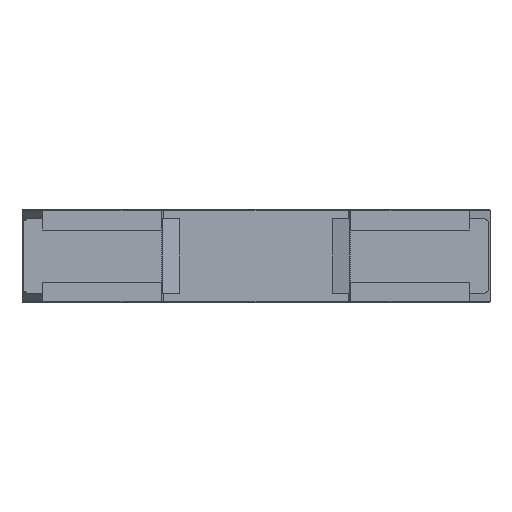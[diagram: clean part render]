
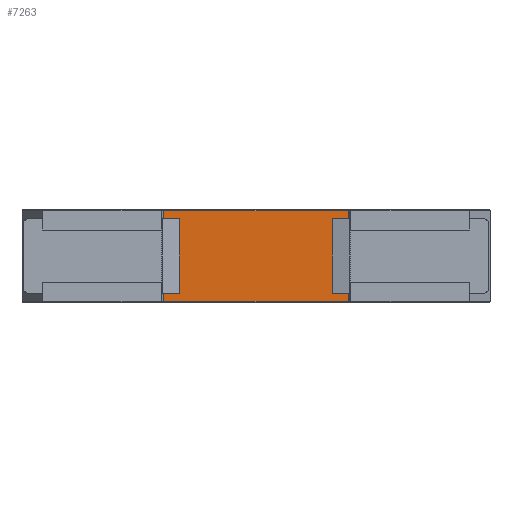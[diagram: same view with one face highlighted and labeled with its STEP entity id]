
A CAD part, front view. The second image highlights one B-rep face of the part: STEP entity #7263.
In plain terms, the highlighted planar face has unit normal (0, -1, 0).
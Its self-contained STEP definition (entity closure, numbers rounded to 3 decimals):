
#2 = EDGE_CURVE ( 'NONE', #5, #3677, #12198, .T. ) ;
#5 = VERTEX_POINT ( 'NONE', #3564 ) ;
#268 = CARTESIAN_POINT ( 'NONE',  ( 17.5, 0., -7.15 ) ) ;
#322 = CARTESIAN_POINT ( 'NONE',  ( 44.75, 0., -7.15 ) ) ;
#562 = VECTOR ( 'NONE', #4317, 1000. ) ;
#702 = LINE ( 'NONE', #8896, #6167 ) ;
#926 = CARTESIAN_POINT ( 'NONE',  ( 44.75, 0., 7.15 ) ) ;
#1131 = EDGE_CURVE ( 'NONE', #2489, #5772, #11711, .T. ) ;
#1209 = CARTESIAN_POINT ( 'NONE',  ( -17.5, 0., -7.15 ) ) ;
#1231 = PLANE ( 'NONE',  #10418 ) ;
#1276 = DIRECTION ( 'NONE',  ( 0., 1., 0. ) ) ;
#1344 = DIRECTION ( 'NONE',  ( -1., 0., 0. ) ) ;
#1403 = CARTESIAN_POINT ( 'NONE',  ( -17.75, 0., -8.7 ) ) ;
#1493 = EDGE_CURVE ( 'NONE', #7833, #6370, #12297, .T. ) ;
#1530 = ORIENTED_EDGE ( 'NONE', *, *, #1493, .T. ) ;
#1582 = ORIENTED_EDGE ( 'NONE', *, *, #10943, .T. ) ;
#1774 = CARTESIAN_POINT ( 'NONE',  ( 17.75, 0., -7.15 ) ) ;
#1796 = CARTESIAN_POINT ( 'NONE',  ( 17.5, 0., 8.9 ) ) ;
#1917 = VECTOR ( 'NONE', #12910, 1000. ) ;
#1961 = VECTOR ( 'NONE', #3642, 1000. ) ;
#2333 = LINE ( 'NONE', #1403, #8906 ) ;
#2489 = VERTEX_POINT ( 'NONE', #5060 ) ;
#2530 = EDGE_CURVE ( 'NONE', #12934, #5373, #10028, .T. ) ;
#2819 = EDGE_CURVE ( 'NONE', #5373, #2489, #11130, .T. ) ;
#2985 = DIRECTION ( 'NONE',  ( 0., 0., -1. ) ) ;
#3027 = LINE ( 'NONE', #322, #10909 ) ;
#3116 = CARTESIAN_POINT ( 'NONE',  ( -17.75, 0., -7.15 ) ) ;
#3331 = CARTESIAN_POINT ( 'NONE',  ( 17.75, 0., 8.9 ) ) ;
#3564 = CARTESIAN_POINT ( 'NONE',  ( -17.75, 0., 8.7 ) ) ;
#3642 = DIRECTION ( 'NONE',  ( 0., 0., -1. ) ) ;
#3677 = VERTEX_POINT ( 'NONE', #9239 ) ;
#3947 = LINE ( 'NONE', #8297, #11187 ) ;
#4088 = VERTEX_POINT ( 'NONE', #4679 ) ;
#4240 = CARTESIAN_POINT ( 'NONE',  ( 17.75, 0., 8.9 ) ) ;
#4317 = DIRECTION ( 'NONE',  ( 0., 0., -1. ) ) ;
#4344 = DIRECTION ( 'NONE',  ( 1., 0., 0. ) ) ;
#4427 = CARTESIAN_POINT ( 'NONE',  ( -17.75, 0., -8.7 ) ) ;
#4679 = CARTESIAN_POINT ( 'NONE',  ( -17.5, 0., 7.15 ) ) ;
#4764 = ORIENTED_EDGE ( 'NONE', *, *, #13036, .T. ) ;
#4769 = DIRECTION ( 'NONE',  ( -1., 0., 0. ) ) ;
#5060 = CARTESIAN_POINT ( 'NONE',  ( 17.5, 0., 7.15 ) ) ;
#5073 = ORIENTED_EDGE ( 'NONE', *, *, #5701, .F. ) ;
#5158 = DIRECTION ( 'NONE',  ( -1., 0., 0. ) ) ;
#5309 = DIRECTION ( 'NONE',  ( 1., 0., 0. ) ) ;
#5373 = VERTEX_POINT ( 'NONE', #12433 ) ;
#5551 = EDGE_CURVE ( 'NONE', #12487, #8584, #8136, .T. ) ;
#5701 = EDGE_CURVE ( 'NONE', #4088, #3677, #3947, .T. ) ;
#5714 = VECTOR ( 'NONE', #2985, 1000. ) ;
#5772 = VERTEX_POINT ( 'NONE', #268 ) ;
#6053 = CARTESIAN_POINT ( 'NONE',  ( -44.75, 0., -7.15 ) ) ;
#6099 = FACE_OUTER_BOUND ( 'NONE', #7842, .T. ) ;
#6167 = VECTOR ( 'NONE', #6942, 1000. ) ;
#6326 = CARTESIAN_POINT ( 'NONE',  ( 17.75, 0., 8.7 ) ) ;
#6370 = VERTEX_POINT ( 'NONE', #12218 ) ;
#6942 = DIRECTION ( 'NONE',  ( 0., 0., 1. ) ) ;
#7263 = ADVANCED_FACE ( 'NONE', ( #6099 ), #1231, .F. ) ;
#7426 = ORIENTED_EDGE ( 'NONE', *, *, #2530, .F. ) ;
#7765 = VECTOR ( 'NONE', #12138, 1000. ) ;
#7833 = VERTEX_POINT ( 'NONE', #1209 ) ;
#7842 = EDGE_LOOP ( 'NONE', ( #5073, #12493, #1530, #1582, #12965, #9297, #4764, #8547, #10339, #7426, #13005, #11230 ) ) ;
#8136 = LINE ( 'NONE', #4240, #12589 ) ;
#8297 = CARTESIAN_POINT ( 'NONE',  ( -17.75, 0., 7.15 ) ) ;
#8417 = LINE ( 'NONE', #3116, #5714 ) ;
#8547 = ORIENTED_EDGE ( 'NONE', *, *, #1131, .F. ) ;
#8584 = VERTEX_POINT ( 'NONE', #1774 ) ;
#8659 = DIRECTION ( 'NONE',  ( -1., 0., 0. ) ) ;
#8896 = CARTESIAN_POINT ( 'NONE',  ( -17.5, 0., 8.9 ) ) ;
#8906 = VECTOR ( 'NONE', #8659, 1000. ) ;
#9239 = CARTESIAN_POINT ( 'NONE',  ( -17.75, 0., 7.15 ) ) ;
#9297 = ORIENTED_EDGE ( 'NONE', *, *, #5551, .T. ) ;
#9485 = EDGE_CURVE ( 'NONE', #5, #12934, #12160, .T. ) ;
#10028 = LINE ( 'NONE', #3331, #562 ) ;
#10339 = ORIENTED_EDGE ( 'NONE', *, *, #2819, .F. ) ;
#10418 = AXIS2_PLACEMENT_3D ( 'NONE', #11583, #1276, #5309 ) ;
#10574 = VECTOR ( 'NONE', #5158, 1000. ) ;
#10652 = CARTESIAN_POINT ( 'NONE',  ( 17.75, 0., -8.7 ) ) ;
#10694 = EDGE_CURVE ( 'NONE', #12487, #13006, #2333, .T. ) ;
#10909 = VECTOR ( 'NONE', #1344, 1000. ) ;
#10943 = EDGE_CURVE ( 'NONE', #6370, #13006, #8417, .T. ) ;
#11130 = LINE ( 'NONE', #926, #7765 ) ;
#11187 = VECTOR ( 'NONE', #4769, 1000. ) ;
#11230 = ORIENTED_EDGE ( 'NONE', *, *, #2, .T. ) ;
#11429 = DIRECTION ( 'NONE',  ( 0., 0., 1. ) ) ;
#11546 = VECTOR ( 'NONE', #4344, 1000. ) ;
#11583 = CARTESIAN_POINT ( 'NONE',  ( -17.75, 0., 8.9 ) ) ;
#11711 = LINE ( 'NONE', #1796, #1917 ) ;
#11768 = EDGE_CURVE ( 'NONE', #7833, #4088, #702, .T. ) ;
#11853 = CARTESIAN_POINT ( 'NONE',  ( -17.75, 0., -7.15 ) ) ;
#12138 = DIRECTION ( 'NONE',  ( -1., 0., 0. ) ) ;
#12160 = LINE ( 'NONE', #12430, #11546 ) ;
#12198 = LINE ( 'NONE', #11853, #1961 ) ;
#12218 = CARTESIAN_POINT ( 'NONE',  ( -17.75, 0., -7.15 ) ) ;
#12297 = LINE ( 'NONE', #6053, #10574 ) ;
#12430 = CARTESIAN_POINT ( 'NONE',  ( 0., 0., 8.7 ) ) ;
#12433 = CARTESIAN_POINT ( 'NONE',  ( 17.75, 0., 7.15 ) ) ;
#12487 = VERTEX_POINT ( 'NONE', #10652 ) ;
#12493 = ORIENTED_EDGE ( 'NONE', *, *, #11768, .F. ) ;
#12589 = VECTOR ( 'NONE', #11429, 1000. ) ;
#12910 = DIRECTION ( 'NONE',  ( 0., 0., -1. ) ) ;
#12934 = VERTEX_POINT ( 'NONE', #6326 ) ;
#12965 = ORIENTED_EDGE ( 'NONE', *, *, #10694, .F. ) ;
#13005 = ORIENTED_EDGE ( 'NONE', *, *, #9485, .F. ) ;
#13006 = VERTEX_POINT ( 'NONE', #4427 ) ;
#13036 = EDGE_CURVE ( 'NONE', #8584, #5772, #3027, .T. ) ;
